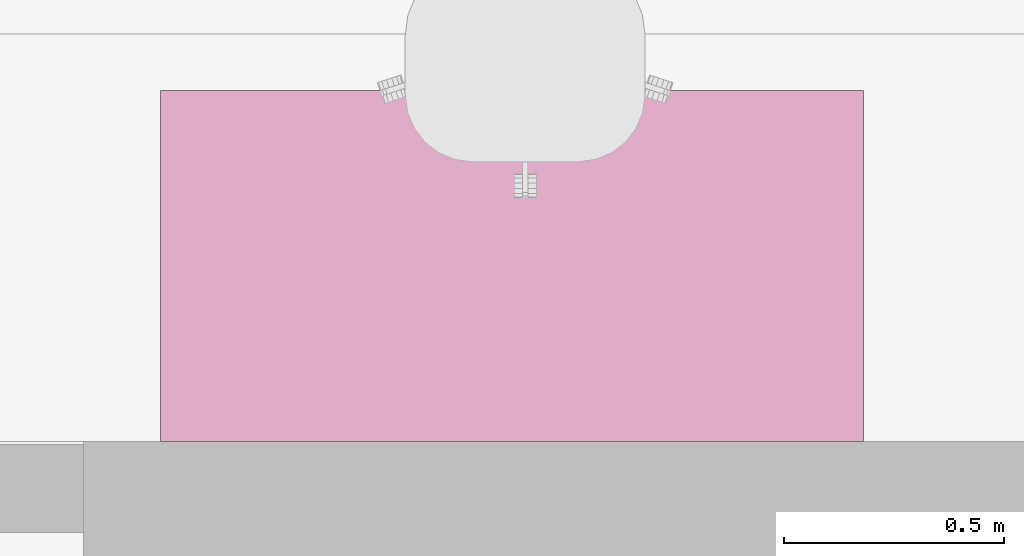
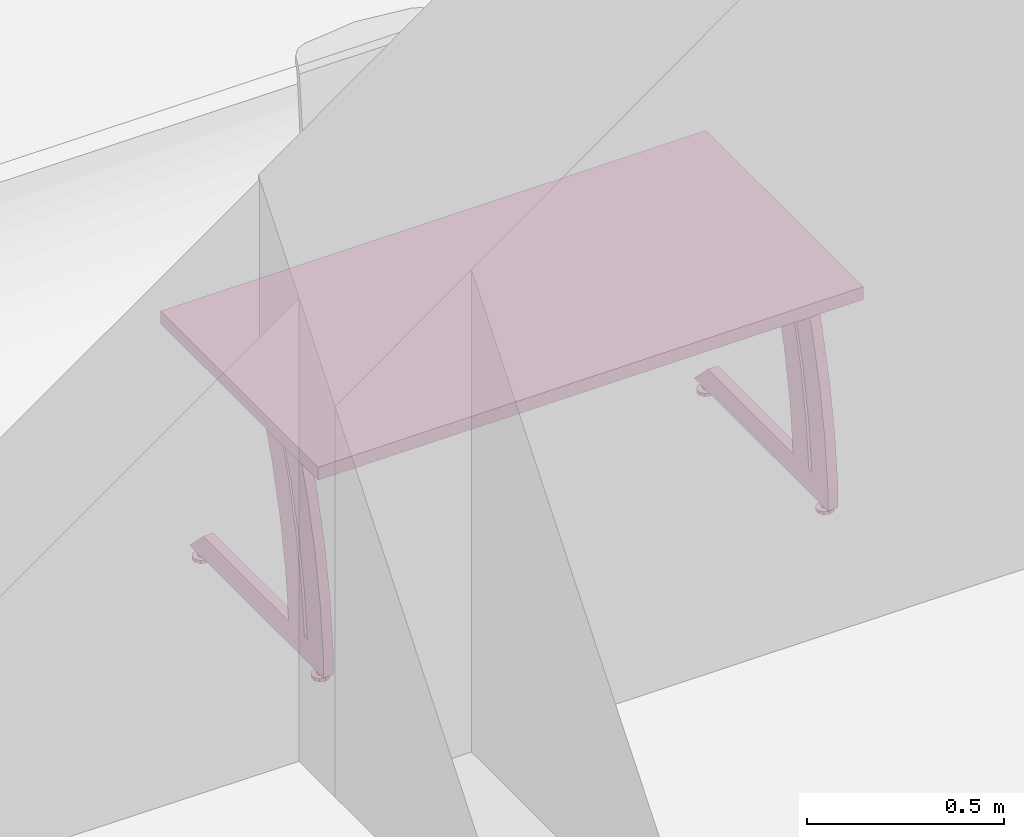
# One storey, part 103 of 128: 1 furnishing.
"""IFC2X3 building model written with IfcOpenShell, lengths in metres."""

from ifc_helpers import new_model, entity, si_unit, converted_unit, derived_unit, direction, frame, origin, place, context, subcontext, project, spatial, faceted_brep, source, transform, mapped, material, type_object, type_shapes, element, save


model = new_model("IFC2X3")

# Units and contexts
model_context = context("Model", 3, precision=1e-05, world=origin(), true_north=direction((6.123031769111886e-17, 1.0)))
body_context = subcontext(model_context, "Body", "Model", "MODEL_VIEW")
ifc_project = project(units=[si_unit("LENGTHUNIT", "METRE"), si_unit("AREAUNIT", "SQUARE_METRE"), converted_unit("PLANEANGLEUNIT", "DEGREE", entity("IfcPlaneAngleMeasure", 0.017453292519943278), si_unit("PLANEANGLEUNIT", "RADIAN"), dimensions=[0, 0, 0, 0, 0, 0, 0]), derived_unit("THERMALTRANSMITTANCEUNIT", [(si_unit("MASSUNIT", "GRAM", prefix="KILO"), 1), (si_unit("THERMODYNAMICTEMPERATUREUNIT", "KELVIN"), -1), (si_unit("TIMEUNIT", "SECOND"), -3)])], contexts=[model_context])

# Site, building, storey
site_placement = place(None, origin())
site = spatial("IfcSite", under=ifc_project, at=site_placement, Name="Default", CompositionType="ELEMENT")
building_placement = place(site_placement, origin())
building = spatial("IfcBuilding", under=site, at=building_placement, CompositionType="ELEMENT")
storey_placement = place(building_placement, origin())
storey = spatial("IfcBuildingStorey", under=building, at=storey_placement, Name="00_RDC CAF", CompositionType="ELEMENT", Elevation=2.4982504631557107e-13)

# Furnishing
ifc_material = material(Name="ARC - Mo - Blanc")
furniture_type = type_object("IfcFurnitureType", Name="Mo_Bureau:Mo_Bureau_1600x800mm", AssemblyPlace="NOTDEFINED", material=ifc_material)
shared_shape = source(origin(), body_context, "Body", "Brep", [
    faceted_brep([(0.05999999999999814, -0.6962325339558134, 0.0), (0.03622358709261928, -0.6885071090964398, 0.0), (0.04076447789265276, -0.6822571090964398, 0.0), (0.04530536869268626, -0.6760071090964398, 0.0), (0.05265268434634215, -0.6736198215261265, 0.0), (0.059999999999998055, -0.6712325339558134, 0.0), (0.06734731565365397, -0.6736198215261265, 0.0), (0.03622358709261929, -0.6962325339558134, 0.0), (0.03622358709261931, -0.7039579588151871, 0.0), (0.04076447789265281, -0.7102079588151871, 0.0), (0.045305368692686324, -0.7164579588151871, 0.0), (0.05265268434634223, -0.7188452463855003, 0.0), (0.05999999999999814, -0.7212325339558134, 0.0), (0.07469463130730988, -0.6760071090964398, 0.0), (0.07923552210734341, -0.6822571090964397, 0.0), (0.08377641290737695, -0.6885071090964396, 0.0), (0.08377641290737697, -0.6962325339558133, 0.0), (0.0673473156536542, -0.7188452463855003, 0.0), (0.07469463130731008, -0.716457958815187, 0.0), (0.07923552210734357, -0.7102079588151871, 0.0), (0.08377641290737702, -0.703957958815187, 0.0), (0.05999999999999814, -0.6962325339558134, 0.024999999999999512), (0.0599999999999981, -0.6862325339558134, 0.024999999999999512), (0.05133974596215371, -0.6912325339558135, 0.024999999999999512), (0.05133974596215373, -0.7012325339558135, 0.024999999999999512), (0.05999999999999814, -0.7062325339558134, 0.024999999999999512), (0.06866025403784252, -0.6912325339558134, 0.024999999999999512), (0.06866025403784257, -0.7012325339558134, 0.024999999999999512), (0.05133974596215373, -0.7012325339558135, 0.010000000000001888), (0.05999999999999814, -0.7062325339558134, 0.010000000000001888), (0.05133974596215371, -0.6912325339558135, 0.010000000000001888), (0.05999999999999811, -0.6862325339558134, 0.010000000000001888), (0.06866025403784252, -0.6912325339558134, 0.010000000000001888), (0.06866025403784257, -0.7012325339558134, 0.010000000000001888), (0.05999999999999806, -0.6712325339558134, 0.010000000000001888), (0.0555460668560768, -0.6726797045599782, 0.010000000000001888), (0.051092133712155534, -0.6741268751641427, 0.010000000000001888), (0.04530536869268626, -0.6760071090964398, 0.010000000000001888), (0.06734731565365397, -0.6736198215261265, 0.010000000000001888), (0.07469463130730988, -0.6760071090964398, 0.010000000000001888), (0.07923552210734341, -0.6822571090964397, 0.010000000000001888), (0.08377641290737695, -0.6885071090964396, 0.010000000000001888), (0.08377641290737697, -0.6962325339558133, 0.010000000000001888), (0.08377641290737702, -0.703957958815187, 0.010000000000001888), (0.07923552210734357, -0.7102079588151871, 0.010000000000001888), (0.07469463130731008, -0.716457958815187, 0.010000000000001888), (0.06890786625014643, -0.7183381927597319, 0.010000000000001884), (0.06445393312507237, -0.7197853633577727, 0.010000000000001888), (0.05999999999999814, -0.7212325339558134, 0.010000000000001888), (0.05265268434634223, -0.7188452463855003, 0.010000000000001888), (0.045305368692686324, -0.7164579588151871, 0.010000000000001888), (0.03622358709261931, -0.7039579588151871, 0.010000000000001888), (0.04076447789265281, -0.7102079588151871, 0.010000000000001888), (0.04076447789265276, -0.6822571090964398, 0.010000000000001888), (0.03622358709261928, -0.6885071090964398, 0.010000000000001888), (0.03622358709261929, -0.6962325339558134, 0.010000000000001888)], [[[0, 1, 2]], [[0, 2, 3]], [[0, 3, 4]], [[0, 4, 5]], [[0, 5, 6]], [[0, 7, 1]], [[0, 8, 7]], [[0, 9, 8]], [[0, 10, 9]], [[0, 11, 10]], [[0, 12, 11]], [[0, 6, 13]], [[0, 13, 14]], [[0, 14, 15]], [[0, 15, 16]], [[0, 17, 12]], [[0, 18, 17]], [[0, 19, 18]], [[0, 20, 19]], [[0, 16, 20]], [[21, 22, 23]], [[23, 24, 21]], [[24, 25, 21]], [[21, 26, 22]], [[25, 27, 21]], [[26, 21, 27]], [[25, 24, 28, 29]], [[24, 23, 30, 28]], [[23, 22, 31, 30]], [[22, 26, 32, 31]], [[26, 27, 33, 32]], [[27, 25, 29, 33]], [[31, 34, 35]], [[31, 35, 36]], [[31, 36, 37]], [[31, 37, 30]], [[31, 38, 34]], [[31, 39, 38]], [[32, 39, 31]], [[32, 40, 39]], [[32, 41, 40]], [[32, 42, 41]], [[32, 43, 42]], [[32, 33, 43]], [[33, 44, 43]], [[33, 45, 44]], [[33, 29, 45]], [[29, 46, 45]], [[29, 47, 46]], [[29, 48, 47]], [[29, 49, 48]], [[29, 50, 49]], [[29, 28, 50]], [[30, 51, 28]], [[28, 51, 52]], [[28, 52, 50]], [[30, 37, 53]], [[30, 53, 54]], [[30, 54, 55]], [[30, 55, 51]], [[11, 12, 48, 49, 50, 10]], [[8, 9, 10, 50, 52, 51]], [[7, 8, 51, 55, 54, 1]], [[3, 37, 36, 35, 34, 5, 4]], [[54, 53, 37, 3, 2, 1]], [[6, 5, 34, 38, 39, 13]], [[15, 14, 13, 39, 40, 41]], [[16, 15, 41, 42, 43, 20]], [[18, 45, 46, 47, 48, 12, 17]], [[43, 44, 45, 18, 19, 20]]]),
    faceted_brep([(0.05999999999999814, -0.09132706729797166, 0.0), (0.03622358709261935, -0.08360164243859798, 0.0), (0.04076447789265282, -0.07735164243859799, 0.0), (0.0453053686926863, -0.07110164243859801, 0.0), (0.05265268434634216, -0.06871435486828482, 0.0), (0.059999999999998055, -0.06632706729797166, 0.0), (0.06734731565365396, -0.06871435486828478, 0.0), (0.03622358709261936, -0.09132706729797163, 0.0), (0.03622358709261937, -0.09905249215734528, 0.0), (0.04076447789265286, -0.10530249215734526, 0.0), (0.04530536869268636, -0.11155249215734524, 0.0), (0.05265268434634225, -0.11393977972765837, 0.0), (0.05999999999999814, -0.11632706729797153, 0.0), (0.07469463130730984, -0.0711016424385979, 0.0), (0.07923552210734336, -0.07735164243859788, 0.0), (0.08377641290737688, -0.08360164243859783, 0.0), (0.0837764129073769, -0.09132706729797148, 0.0), (0.06734731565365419, -0.11393977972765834, 0.0), (0.07469463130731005, -0.11155249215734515, 0.0), (0.07923552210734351, -0.10530249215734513, 0.0), (0.08377641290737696, -0.09905249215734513, 0.0), (0.05999999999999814, -0.09132706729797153, 0.024999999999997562), (0.0599999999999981, -0.08132706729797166, 0.024999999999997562), (0.05133974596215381, -0.08632706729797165, 0.024999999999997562), (0.05133974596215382, -0.09632706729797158, 0.024999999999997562), (0.05999999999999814, -0.10132706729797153, 0.024999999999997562), (0.06866025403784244, -0.0863270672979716, 0.024999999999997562), (0.06866025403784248, -0.09632706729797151, 0.024999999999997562), (0.05133974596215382, -0.09632706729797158, 0.009999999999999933), (0.05999999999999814, -0.10132706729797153, 0.009999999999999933), (0.05133974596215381, -0.08632706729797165, 0.009999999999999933), (0.05999999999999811, -0.08132706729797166, 0.009999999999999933), (0.06866025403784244, -0.0863270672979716, 0.009999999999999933), (0.06866025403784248, -0.09632706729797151, 0.009999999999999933), (0.05999999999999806, -0.06632706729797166, 0.009999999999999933), (0.055546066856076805, -0.06777423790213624, 0.00999999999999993), (0.051092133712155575, -0.06922140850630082, 0.00999999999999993), (0.0453053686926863, -0.07110164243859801, 0.009999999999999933), (0.06734731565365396, -0.06871435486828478, 0.00999999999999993), (0.07469463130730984, -0.0711016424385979, 0.009999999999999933), (0.07923552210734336, -0.07735164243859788, 0.00999999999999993), (0.08377641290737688, -0.08360164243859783, 0.009999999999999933), (0.0837764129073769, -0.09132706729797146, 0.00999999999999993), (0.08377641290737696, -0.09905249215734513, 0.009999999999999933), (0.07923552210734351, -0.10530249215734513, 0.00999999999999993), (0.07469463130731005, -0.11155249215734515, 0.009999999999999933), (0.0689078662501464, -0.11343272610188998, 0.00999999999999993), (0.06445393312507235, -0.11487989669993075, 0.00999999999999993), (0.05999999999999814, -0.11632706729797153, 0.009999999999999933), (0.05265268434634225, -0.11393977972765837, 0.00999999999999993), (0.04530536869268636, -0.11155249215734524, 0.009999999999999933), (0.03622358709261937, -0.09905249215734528, 0.009999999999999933), (0.04076447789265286, -0.10530249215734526, 0.00999999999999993), (0.04076447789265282, -0.07735164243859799, 0.00999999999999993), (0.03622358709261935, -0.08360164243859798, 0.009999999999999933), (0.03622358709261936, -0.09132706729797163, 0.00999999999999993)], [[[0, 1, 2]], [[0, 2, 3]], [[0, 3, 4]], [[0, 4, 5]], [[0, 5, 6]], [[0, 7, 1]], [[0, 8, 7]], [[0, 9, 8]], [[0, 10, 9]], [[0, 11, 10]], [[0, 12, 11]], [[0, 6, 13]], [[0, 13, 14]], [[0, 14, 15]], [[0, 15, 16]], [[0, 17, 12]], [[0, 18, 17]], [[0, 19, 18]], [[0, 20, 19]], [[0, 16, 20]], [[21, 22, 23]], [[23, 24, 21]], [[24, 25, 21]], [[21, 26, 22]], [[25, 27, 21]], [[26, 21, 27]], [[25, 24, 28, 29]], [[24, 23, 30, 28]], [[23, 22, 31, 30]], [[22, 26, 32, 31]], [[26, 27, 33, 32]], [[27, 25, 29, 33]], [[31, 34, 35]], [[31, 35, 36]], [[31, 36, 37]], [[31, 37, 30]], [[31, 38, 34]], [[31, 39, 38]], [[32, 39, 31]], [[32, 40, 39]], [[32, 41, 40]], [[32, 42, 41]], [[32, 43, 42]], [[32, 33, 43]], [[33, 44, 43]], [[33, 45, 44]], [[33, 29, 45]], [[29, 46, 45]], [[29, 47, 46]], [[29, 48, 47]], [[29, 49, 48]], [[29, 50, 49]], [[29, 28, 50]], [[30, 51, 28]], [[28, 51, 52]], [[28, 52, 50]], [[30, 37, 53]], [[30, 53, 54]], [[30, 54, 55]], [[30, 55, 51]], [[11, 12, 48, 49, 50, 10]], [[8, 9, 10, 50, 52, 51]], [[7, 8, 51, 55, 54, 1]], [[3, 37, 36, 35, 34, 5, 4]], [[54, 53, 37, 3, 2, 1]], [[6, 5, 34, 38, 39, 13]], [[15, 14, 13, 39, 40, 41]], [[16, 15, 41, 42, 43, 20]], [[18, 45, 46, 47, 48, 12, 17]], [[43, 44, 45, 18, 19, 20]]]),
    faceted_brep([(0.04499999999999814, -0.22742160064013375, 0.09500000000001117), (0.04499999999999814, -0.24409269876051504, 0.24614112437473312), (0.04499999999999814, -0.2727144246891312, 0.3954808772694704), (0.04499999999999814, -0.313105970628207, 0.542075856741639), (0.04499999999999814, -0.36501217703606, 0.684999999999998), (0.04499999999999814, -0.27887211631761, 0.6849999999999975), (0.04499999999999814, -0.22919246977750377, 0.5416912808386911), (0.04499999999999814, -0.19055436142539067, 0.39501969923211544), (0.04499999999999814, -0.1631815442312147, 0.24583462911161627), (0.04499999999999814, -0.14723253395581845, 0.09500000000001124), (0.07499999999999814, -0.3650121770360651, 0.6850000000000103), (0.07499999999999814, -0.313105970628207, 0.542075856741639), (0.07499999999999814, -0.2727144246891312, 0.3954808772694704), (0.07499999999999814, -0.24409269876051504, 0.24614112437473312), (0.07499999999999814, -0.22742160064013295, 0.09499999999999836), (0.07499999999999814, -0.14723253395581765, 0.09499999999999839), (0.07499999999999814, -0.1631815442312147, 0.24583462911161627), (0.07499999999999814, -0.19055436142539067, 0.39501969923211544), (0.07499999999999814, -0.22919246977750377, 0.5416912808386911), (0.07499999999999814, -0.2788721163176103, 0.684999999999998)], [[[0, 1, 2, 3, 4, 5, 6, 7, 8, 9]], [[10, 11, 12, 13, 14, 15, 16, 17, 18, 19]], [[10, 19, 5, 4]], [[3, 11, 10, 4]], [[2, 12, 11, 3]], [[0, 14, 13, 1]], [[12, 2, 1, 13]], [[15, 14, 0, 9]], [[8, 7, 17, 16]], [[15, 9, 8, 16]], [[6, 5, 19, 18]], [[6, 18, 17, 7]]]),
    faceted_brep([(0.04499999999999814, -0.1314216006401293, 0.09500000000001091), (0.04499999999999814, -0.1480926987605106, 0.24614112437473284), (0.04499999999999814, -0.17671442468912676, 0.3954808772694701), (0.04499999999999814, -0.21710597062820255, 0.5420758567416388), (0.04499999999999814, -0.2690121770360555, 0.6849999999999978), (0.04499999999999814, -0.18287211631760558, 0.6849999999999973), (0.04499999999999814, -0.13319246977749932, 0.5416912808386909), (0.04499999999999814, -0.09455436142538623, 0.39501969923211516), (0.04499999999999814, -0.06718154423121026, 0.24583462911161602), (0.04499999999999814, -0.05123253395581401, 0.09500000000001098), (0.07499999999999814, -0.2690121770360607, 0.6850000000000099), (0.07499999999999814, -0.21710597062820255, 0.5420758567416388), (0.07499999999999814, -0.17671442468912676, 0.3954808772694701), (0.07499999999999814, -0.1480926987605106, 0.24614112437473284), (0.07499999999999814, -0.1314216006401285, 0.09499999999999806), (0.07499999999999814, -0.051232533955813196, 0.09499999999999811), (0.07499999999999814, -0.06718154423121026, 0.24583462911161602), (0.07499999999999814, -0.09455436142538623, 0.39501969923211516), (0.07499999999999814, -0.13319246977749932, 0.5416912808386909), (0.07499999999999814, -0.18287211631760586, 0.6849999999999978)], [[[0, 1, 2, 3, 4, 5, 6, 7, 8, 9]], [[10, 11, 12, 13, 14, 15, 16, 17, 18, 19]], [[10, 19, 5, 4]], [[3, 11, 10, 4]], [[2, 12, 11, 3]], [[0, 14, 13, 1]], [[12, 2, 1, 13]], [[15, 14, 0, 9]], [[8, 7, 17, 16]], [[15, 9, 8, 16]], [[6, 5, 19, 18]], [[6, 18, 17, 7]]]),
    faceted_brep([(0.04499999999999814, -0.05123253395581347, 0.024999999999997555), (0.04499999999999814, -0.7312325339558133, 0.024999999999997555), (0.04499999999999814, -0.6612325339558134, 0.09499999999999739), (0.04499999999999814, -0.05123253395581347, 0.09499999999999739), (0.07499999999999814, -0.05123253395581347, 0.024999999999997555), (0.07499999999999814, -0.05123253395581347, 0.09499999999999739), (0.07499999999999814, -0.6612325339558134, 0.09499999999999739), (0.07499999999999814, -0.7312325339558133, 0.024999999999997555)], [[[0, 1, 2, 3]], [[4, 5, 6, 7]], [[5, 4, 0, 3]], [[6, 5, 3, 2]], [[4, 7, 1, 0]], [[7, 6, 2, 1]]]),
    faceted_brep([(1.5399999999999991, -0.6962325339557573, 0.0), (1.5162235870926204, -0.6885071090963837, 0.0), (1.5207644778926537, -0.6822571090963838, 0.0), (1.5253053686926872, -0.6760071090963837, 0.0), (1.532652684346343, -0.6736198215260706, 0.0), (1.5399999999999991, -0.6712325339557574, 0.0), (1.547347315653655, -0.6736198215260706, 0.0), (1.5162235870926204, -0.6962325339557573, 0.0), (1.5162235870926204, -0.7039579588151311, 0.0), (1.5207644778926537, -0.710207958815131, 0.0), (1.5253053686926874, -0.7164579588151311, 0.0), (1.5326526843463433, -0.7188452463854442, 0.0), (1.5399999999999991, -0.7212325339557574, 0.0), (1.554694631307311, -0.6760071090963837, 0.0), (1.5592355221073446, -0.6822571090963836, 0.0), (1.563776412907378, -0.6885071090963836, 0.0), (1.563776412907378, -0.6962325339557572, 0.0), (1.5473473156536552, -0.7188452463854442, 0.0), (1.5546946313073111, -0.716457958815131, 0.0), (1.5592355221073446, -0.710207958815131, 0.0), (1.563776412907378, -0.7039579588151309, 0.0), (1.5399999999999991, -0.6962325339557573, 0.024999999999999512), (1.5399999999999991, -0.6862325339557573, 0.024999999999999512), (1.5313397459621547, -0.6912325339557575, 0.024999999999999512), (1.5313397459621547, -0.7012325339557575, 0.024999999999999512), (1.5399999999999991, -0.7062325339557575, 0.024999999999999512), (1.5486602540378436, -0.6912325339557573, 0.024999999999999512), (1.5486602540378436, -0.7012325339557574, 0.024999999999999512), (1.5313397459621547, -0.7012325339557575, 0.010000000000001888), (1.5399999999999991, -0.7062325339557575, 0.010000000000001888), (1.5313397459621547, -0.6912325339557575, 0.010000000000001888), (1.5399999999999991, -0.6862325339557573, 0.010000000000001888), (1.5486602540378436, -0.6912325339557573, 0.010000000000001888), (1.5486602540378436, -0.7012325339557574, 0.010000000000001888), (1.5399999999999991, -0.6712325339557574, 0.010000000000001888), (1.5355460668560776, -0.672679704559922, 0.010000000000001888), (1.5310921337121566, -0.6741268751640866, 0.010000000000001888), (1.5253053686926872, -0.6760071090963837, 0.010000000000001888), (1.547347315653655, -0.6736198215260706, 0.010000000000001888), (1.554694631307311, -0.6760071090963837, 0.010000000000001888), (1.5592355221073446, -0.6822571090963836, 0.010000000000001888), (1.563776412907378, -0.6885071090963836, 0.010000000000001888), (1.563776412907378, -0.6962325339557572, 0.010000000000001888), (1.563776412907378, -0.7039579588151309, 0.010000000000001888), (1.5592355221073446, -0.710207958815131, 0.010000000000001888), (1.5546946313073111, -0.716457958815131, 0.010000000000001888), (1.5489078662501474, -0.7183381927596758, 0.010000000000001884), (1.5444539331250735, -0.7197853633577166, 0.010000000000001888), (1.5399999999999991, -0.7212325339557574, 0.010000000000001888), (1.5326526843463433, -0.7188452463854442, 0.010000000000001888), (1.5253053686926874, -0.7164579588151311, 0.010000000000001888), (1.5162235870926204, -0.7039579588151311, 0.010000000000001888), (1.5207644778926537, -0.710207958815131, 0.010000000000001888), (1.5207644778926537, -0.6822571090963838, 0.010000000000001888), (1.5162235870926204, -0.6885071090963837, 0.010000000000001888), (1.5162235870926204, -0.6962325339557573, 0.010000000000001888)], [[[0, 1, 2]], [[0, 2, 3]], [[0, 3, 4]], [[0, 4, 5]], [[0, 5, 6]], [[0, 7, 1]], [[0, 8, 7]], [[0, 9, 8]], [[0, 10, 9]], [[0, 11, 10]], [[0, 12, 11]], [[0, 6, 13]], [[0, 13, 14]], [[0, 14, 15]], [[0, 15, 16]], [[0, 17, 12]], [[0, 18, 17]], [[0, 19, 18]], [[0, 20, 19]], [[0, 16, 20]], [[21, 22, 23]], [[23, 24, 21]], [[24, 25, 21]], [[21, 26, 22]], [[25, 27, 21]], [[26, 21, 27]], [[25, 24, 28, 29]], [[24, 23, 30, 28]], [[23, 22, 31, 30]], [[22, 26, 32, 31]], [[26, 27, 33, 32]], [[27, 25, 29, 33]], [[31, 34, 35]], [[31, 35, 36]], [[31, 36, 37]], [[31, 37, 30]], [[31, 38, 34]], [[31, 39, 38]], [[32, 39, 31]], [[32, 40, 39]], [[32, 41, 40]], [[32, 42, 41]], [[32, 43, 42]], [[32, 33, 43]], [[33, 44, 43]], [[33, 45, 44]], [[33, 29, 45]], [[29, 46, 45]], [[29, 47, 46]], [[29, 48, 47]], [[29, 49, 48]], [[29, 50, 49]], [[29, 28, 50]], [[30, 51, 28]], [[28, 51, 52]], [[28, 52, 50]], [[30, 37, 53]], [[30, 53, 54]], [[30, 54, 55]], [[30, 55, 51]], [[11, 12, 48, 49, 50, 10]], [[8, 9, 10, 50, 52, 51]], [[7, 8, 51, 55, 54, 1]], [[3, 37, 36, 35, 34, 5, 4]], [[54, 53, 37, 3, 2, 1]], [[6, 5, 34, 38, 39, 13]], [[15, 14, 13, 39, 40, 41]], [[16, 15, 41, 42, 43, 20]], [[18, 45, 46, 47, 48, 12, 17]], [[43, 44, 45, 18, 19, 20]]]),
    faceted_brep([(1.5399999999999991, -0.09132706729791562, 0.0), (1.5162235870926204, -0.08360164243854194, 0.0), (1.5207644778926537, -0.07735164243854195, 0.0), (1.5253053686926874, -0.07110164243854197, 0.0), (1.5326526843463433, -0.06871435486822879, 0.0), (1.5399999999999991, -0.06632706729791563, 0.0), (1.547347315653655, -0.06871435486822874, 0.0), (1.5162235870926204, -0.09132706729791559, 0.0), (1.5162235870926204, -0.09905249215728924, 0.0), (1.5207644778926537, -0.10530249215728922, 0.0), (1.5253053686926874, -0.1115524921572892, 0.0), (1.5326526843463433, -0.11393977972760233, 0.0), (1.5399999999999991, -0.11632706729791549, 0.0), (1.554694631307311, -0.07110164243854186, 0.0), (1.5592355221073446, -0.07735164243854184, 0.0), (1.563776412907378, -0.08360164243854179, 0.0), (1.563776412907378, -0.09132706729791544, 0.0), (1.5473473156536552, -0.1139397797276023, 0.0), (1.5546946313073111, -0.11155249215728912, 0.0), (1.5592355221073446, -0.1053024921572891, 0.0), (1.563776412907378, -0.09905249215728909, 0.0), (1.5399999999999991, -0.0913270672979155, 0.024999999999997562), (1.5399999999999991, -0.08132706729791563, 0.024999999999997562), (1.531339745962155, -0.08632706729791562, 0.024999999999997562), (1.531339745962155, -0.09632706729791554, 0.024999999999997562), (1.5399999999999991, -0.10132706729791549, 0.024999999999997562), (1.5486602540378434, -0.08632706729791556, 0.024999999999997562), (1.5486602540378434, -0.09632706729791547, 0.024999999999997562), (1.531339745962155, -0.09632706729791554, 0.009999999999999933), (1.5399999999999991, -0.10132706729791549, 0.009999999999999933), (1.531339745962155, -0.08632706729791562, 0.009999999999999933), (1.5399999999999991, -0.08132706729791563, 0.009999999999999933), (1.5486602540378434, -0.08632706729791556, 0.009999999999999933), (1.5486602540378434, -0.09632706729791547, 0.009999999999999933), (1.5399999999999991, -0.06632706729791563, 0.009999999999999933), (1.5355460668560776, -0.0677742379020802, 0.00999999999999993), (1.5310921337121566, -0.06922140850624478, 0.00999999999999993), (1.5253053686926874, -0.07110164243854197, 0.009999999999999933), (1.547347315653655, -0.06871435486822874, 0.00999999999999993), (1.554694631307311, -0.07110164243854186, 0.009999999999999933), (1.5592355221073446, -0.07735164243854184, 0.00999999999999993), (1.563776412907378, -0.08360164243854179, 0.009999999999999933), (1.563776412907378, -0.09132706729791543, 0.00999999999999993), (1.563776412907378, -0.09905249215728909, 0.009999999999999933), (1.5592355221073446, -0.1053024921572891, 0.00999999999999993), (1.5546946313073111, -0.11155249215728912, 0.009999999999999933), (1.5489078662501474, -0.11343272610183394, 0.00999999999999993), (1.5444539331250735, -0.11487989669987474, 0.00999999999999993), (1.5399999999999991, -0.11632706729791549, 0.009999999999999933), (1.5326526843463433, -0.11393977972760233, 0.00999999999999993), (1.5253053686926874, -0.1115524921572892, 0.009999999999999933), (1.5162235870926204, -0.09905249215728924, 0.009999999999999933), (1.5207644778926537, -0.10530249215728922, 0.00999999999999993), (1.5207644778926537, -0.07735164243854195, 0.00999999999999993), (1.5162235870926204, -0.08360164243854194, 0.009999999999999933), (1.5162235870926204, -0.09132706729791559, 0.00999999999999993)], [[[0, 1, 2]], [[0, 2, 3]], [[0, 3, 4]], [[0, 4, 5]], [[0, 5, 6]], [[0, 7, 1]], [[0, 8, 7]], [[0, 9, 8]], [[0, 10, 9]], [[0, 11, 10]], [[0, 12, 11]], [[0, 6, 13]], [[0, 13, 14]], [[0, 14, 15]], [[0, 15, 16]], [[0, 17, 12]], [[0, 18, 17]], [[0, 19, 18]], [[0, 20, 19]], [[0, 16, 20]], [[21, 22, 23]], [[23, 24, 21]], [[24, 25, 21]], [[21, 26, 22]], [[25, 27, 21]], [[26, 21, 27]], [[25, 24, 28, 29]], [[24, 23, 30, 28]], [[23, 22, 31, 30]], [[22, 26, 32, 31]], [[26, 27, 33, 32]], [[27, 25, 29, 33]], [[31, 34, 35]], [[31, 35, 36]], [[31, 36, 37]], [[31, 37, 30]], [[31, 38, 34]], [[31, 39, 38]], [[32, 39, 31]], [[32, 40, 39]], [[32, 41, 40]], [[32, 42, 41]], [[32, 43, 42]], [[32, 33, 43]], [[33, 44, 43]], [[33, 45, 44]], [[33, 29, 45]], [[29, 46, 45]], [[29, 47, 46]], [[29, 48, 47]], [[29, 49, 48]], [[29, 50, 49]], [[29, 28, 50]], [[30, 51, 28]], [[28, 51, 52]], [[28, 52, 50]], [[30, 37, 53]], [[30, 53, 54]], [[30, 54, 55]], [[30, 55, 51]], [[11, 12, 48, 49, 50, 10]], [[8, 9, 10, 50, 52, 51]], [[7, 8, 51, 55, 54, 1]], [[3, 37, 36, 35, 34, 5, 4]], [[54, 53, 37, 3, 2, 1]], [[6, 5, 34, 38, 39, 13]], [[15, 14, 13, 39, 40, 41]], [[16, 15, 41, 42, 43, 20]], [[18, 45, 46, 47, 48, 12, 17]], [[43, 44, 45, 18, 19, 20]]]),
    faceted_brep([(1.524999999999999, -0.22742160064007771, 0.09500000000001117), (1.524999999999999, -0.244092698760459, 0.24614112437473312), (1.524999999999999, -0.27271442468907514, 0.3954808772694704), (1.524999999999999, -0.31310597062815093, 0.542075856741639), (1.524999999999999, -0.3650121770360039, 0.684999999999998), (1.524999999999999, -0.278872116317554, 0.6849999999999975), (1.524999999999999, -0.22919246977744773, 0.5416912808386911), (1.524999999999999, -0.19055436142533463, 0.39501969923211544), (1.524999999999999, -0.16318154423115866, 0.24583462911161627), (1.524999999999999, -0.1472325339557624, 0.09500000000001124), (1.5549999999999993, -0.3650121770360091, 0.6850000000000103), (1.5549999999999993, -0.31310597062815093, 0.542075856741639), (1.5549999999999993, -0.27271442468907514, 0.3954808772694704), (1.5549999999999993, -0.244092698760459, 0.24614112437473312), (1.5549999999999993, -0.2274216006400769, 0.09499999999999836), (1.5549999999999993, -0.1472325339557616, 0.09499999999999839), (1.5549999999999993, -0.16318154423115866, 0.24583462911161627), (1.5549999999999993, -0.19055436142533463, 0.39501969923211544), (1.5549999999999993, -0.22919246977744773, 0.5416912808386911), (1.5549999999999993, -0.27887211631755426, 0.684999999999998)], [[[0, 1, 2, 3, 4, 5, 6, 7, 8, 9]], [[10, 11, 12, 13, 14, 15, 16, 17, 18, 19]], [[10, 19, 5, 4]], [[3, 11, 10, 4]], [[2, 12, 11, 3]], [[0, 14, 13, 1]], [[12, 2, 1, 13]], [[15, 14, 0, 9]], [[8, 7, 17, 16]], [[15, 9, 8, 16]], [[6, 5, 19, 18]], [[6, 18, 17, 7]]]),
    faceted_brep([(1.524999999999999, -0.13142160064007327, 0.09500000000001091), (1.524999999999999, -0.14809269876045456, 0.24614112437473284), (1.524999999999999, -0.17671442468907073, 0.3954808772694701), (1.524999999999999, -0.21710597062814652, 0.5420758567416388), (1.524999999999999, -0.2690121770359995, 0.6849999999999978), (1.524999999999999, -0.18287211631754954, 0.6849999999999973), (1.524999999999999, -0.13319246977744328, 0.5416912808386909), (1.524999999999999, -0.09455436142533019, 0.39501969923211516), (1.524999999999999, -0.06718154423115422, 0.24583462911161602), (1.524999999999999, -0.05123253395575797, 0.09500000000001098), (1.5549999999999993, -0.2690121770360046, 0.6850000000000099), (1.5549999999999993, -0.21710597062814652, 0.5420758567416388), (1.5549999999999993, -0.17671442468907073, 0.3954808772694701), (1.5549999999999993, -0.14809269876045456, 0.24614112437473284), (1.5549999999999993, -0.13142160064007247, 0.09499999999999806), (1.5549999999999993, -0.05123253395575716, 0.09499999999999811), (1.5549999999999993, -0.06718154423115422, 0.24583462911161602), (1.5549999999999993, -0.09455436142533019, 0.39501969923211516), (1.5549999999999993, -0.13319246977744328, 0.5416912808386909), (1.5549999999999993, -0.18287211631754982, 0.6849999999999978)], [[[0, 1, 2, 3, 4, 5, 6, 7, 8, 9]], [[10, 11, 12, 13, 14, 15, 16, 17, 18, 19]], [[10, 19, 5, 4]], [[3, 11, 10, 4]], [[2, 12, 11, 3]], [[0, 14, 13, 1]], [[12, 2, 1, 13]], [[15, 14, 0, 9]], [[8, 7, 17, 16]], [[15, 9, 8, 16]], [[6, 5, 19, 18]], [[6, 18, 17, 7]]]),
    faceted_brep([(1.524999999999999, -0.05123253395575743, 0.024999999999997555), (1.524999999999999, -0.7312325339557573, 0.024999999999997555), (1.524999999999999, -0.6612325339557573, 0.09499999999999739), (1.524999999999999, -0.05123253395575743, 0.09499999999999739), (1.5549999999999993, -0.05123253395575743, 0.024999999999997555), (1.5549999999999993, -0.05123253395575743, 0.09499999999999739), (1.5549999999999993, -0.6612325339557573, 0.09499999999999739), (1.5549999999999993, -0.7312325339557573, 0.024999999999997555)], [[[0, 1, 2, 3]], [[4, 5, 6, 7]], [[5, 4, 0, 3]], [[6, 5, 3, 2]], [[4, 7, 1, 0]], [[7, 6, 2, 1]]]),
    faceted_brep([(0.0, -0.7999999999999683, 0.685), (0.0, 0.0, 0.685), (1.5999999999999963, 0.0, 0.684999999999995), (1.5999999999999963, -0.7999999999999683, 0.684999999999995), (0.0, -0.7999999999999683, 0.7250000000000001), (1.5999999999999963, -0.7999999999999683, 0.7249999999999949), (1.5999999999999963, 0.0, 0.7249999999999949), (0.0, 0.0, 0.7250000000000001)], [[[0, 1, 2, 3]], [[4, 5, 6, 7]], [[5, 4, 0, 3]], [[6, 5, 3, 2]], [[7, 6, 2, 1]], [[4, 7, 1, 0]]]),
])
type_shapes(furniture_type, [shared_shape])
furnishing_placement = place(storey_placement, frame((32.26826558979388, 136.86278506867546, 0.0), z_axis=(0.0, 0.0, 1.0), x_axis=(-1.0, 0.0, 0.0)))
element("IfcFurnishingElement", 1, at=furnishing_placement, inside=storey, type_object=furniture_type, material=ifc_material, Name="Mo_Bureau:Mo_Bureau_1600x800mm", ObjectType="Mo_Bureau:Mo_Bureau_1600x800mm", context=body_context, shape_type="MappedRepresentation", body=[
    mapped(shared_shape, transform((0.0, 0.0, 0.0), scale=1.0)),
])

save(model, "model.ifc")
